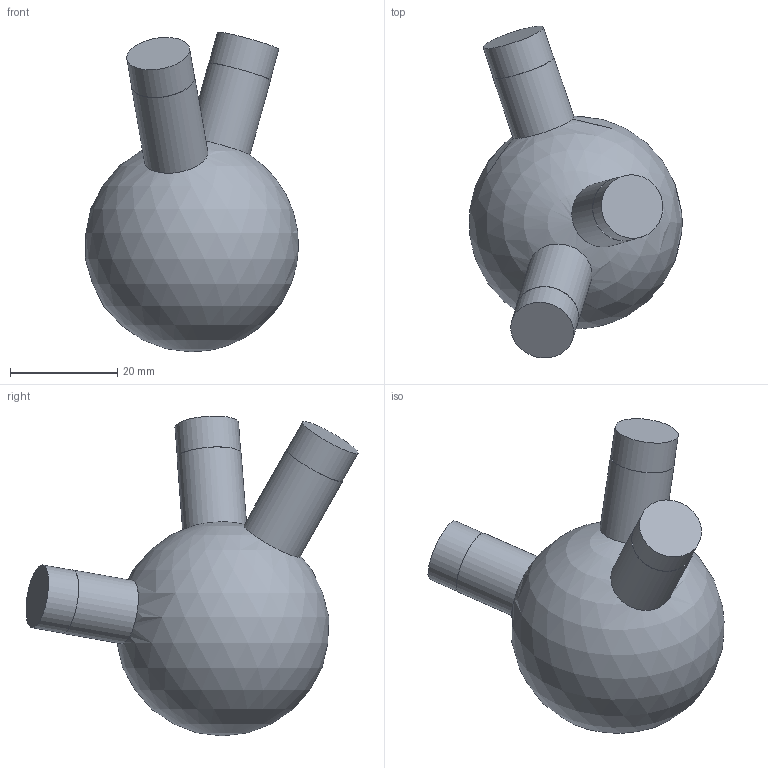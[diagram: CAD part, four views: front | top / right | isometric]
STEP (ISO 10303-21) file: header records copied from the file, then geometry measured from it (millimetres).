
FILE_DESCRIPTION(('Open CASCADE Model'),'2;1');
FILE_NAME('Open CASCADE Shape Model','2026-10-21T12:47:57',('Author'),( 'Open CASCADE'),'Open CASCADE STEP processor 7.9','Open CASCADE 7.9' ,'Unknown');
FILE_SCHEMA(('AUTOMOTIVE_DESIGN { 1 0 10303 214 1 1 1 1 }'));
Length unit declared in the file: millimetre
Products named in the file (1): Open CASCADE STEP translator 7.9 130
Bounding box: 39.82 x 62.04 x 59.75 mm (x, y, z)
Volume: 40208.6 mm3; surface area: 7309.4 mm2
Topology: 1 solids, 1 shells, 13 faces, 21 edges, 14 vertices
Faces by surface type: cylinder 6, plane 6, sphere 1
Full cylindrical faces by diameter (mm): 11.9 x3, 12 x3
Entity records: 861 total; most frequent: CARTESIAN_POINT 383, DIRECTION 98, ORIENTED_EDGE 40, PCURVE 40, DEFINITIONAL_REPRESENTATION 40, LINE 33, VECTOR 33, AXIS2_PLACEMENT_3D 28
